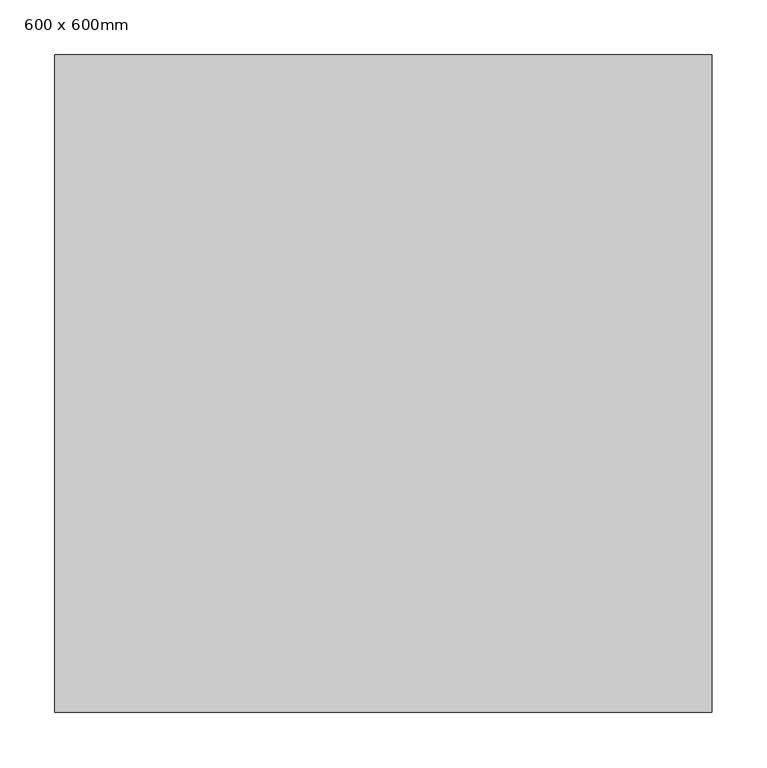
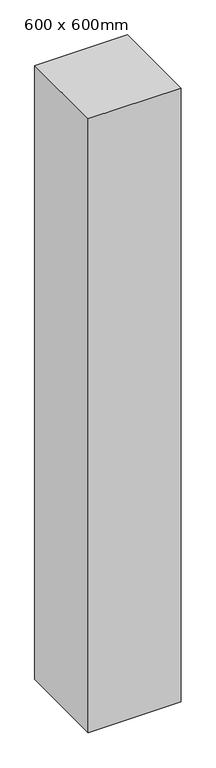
"""IFC4 building model written with IfcOpenShell, lengths in millimetres: column geometry, 矩形柱 : 600 x 600mm."""

from ifc_helpers import new_model, si_unit, frame, origin, place, context, project, spatial, polyline, outline, extrude, source, transform, mapped, element, save


def column_600_x_600mm_102d08f1(model_context):
    return source(origin(), model_context, "Body", "SweptSolid", [
        extrude(outline(polyline([(300.0, 300.0), (300.0, -300.0), (-300.0, -300.0), (-300.0, 300.0), (300.0, 300.0)])), frame((0.0, 0.0, 8400.0), z_axis=(0.0, 0.0, 1.0), x_axis=(1.0, 0.0, 0.0)), (0.0, 0.0, 1.0), 4200.0),
    ])


if __name__ == "__main__":
    model = new_model("IFC4")
    model_context = context("Model", 3, world=origin())
    ifc_project = project(units=[si_unit("LENGTHUNIT", "METRE", prefix="MILLI")], contexts=[model_context])
    site = spatial("IfcSite", under=ifc_project)
    building = spatial("IfcBuilding", under=site)
    placement = place(None, origin())
    column_600_x_600mm_shape = column_600_x_600mm_102d08f1(model_context)
    element("IfcColumn", 1, ObjectType="矩形柱 : 600 x 600mm", at=placement, inside=building, context=model_context, shape_type="MappedRepresentation", body=[
        mapped(column_600_x_600mm_shape, transform((0.0, 0.0, 0.0), x_axis=(1.0, 0.0, 0.0), y_axis=(0.0, 1.0, 0.0), z_axis=(0.0, 0.0, 1.0))),
    ])
    save(model, "model.ifc")
